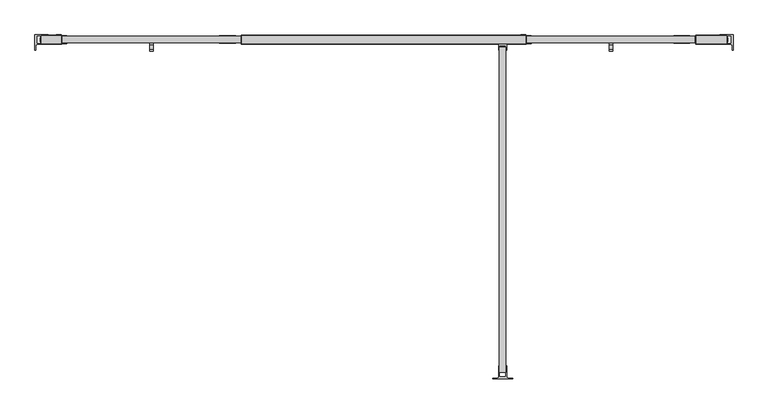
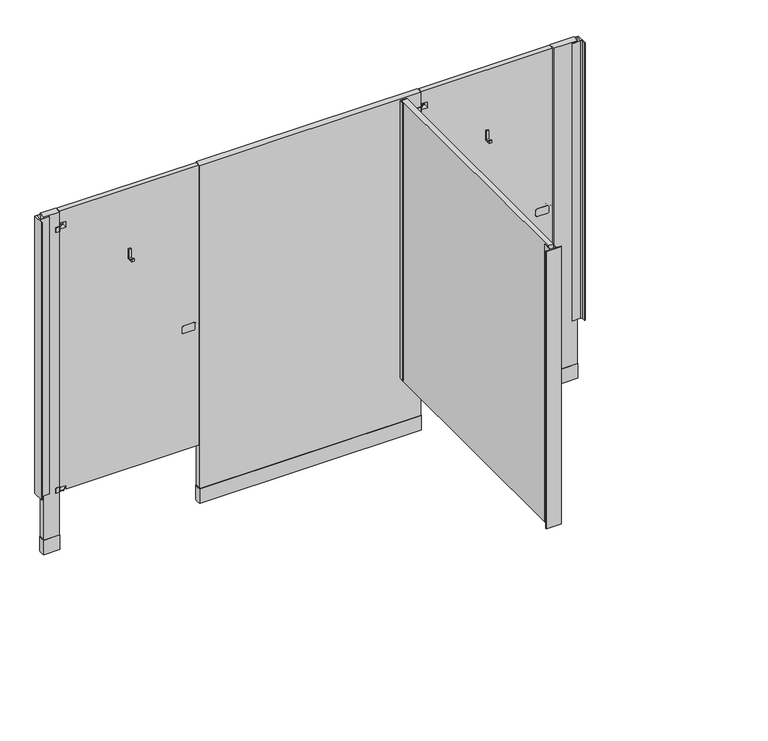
"""IFC4 building model written with IfcOpenShell, lengths in millimetres: proxy geometry, Partition-Floor_Braced-Bradley_Corp-Enamel-ADA-N_Stalls : ADA (optional) + n Standard Stalls."""

from ifc_helpers import new_model, si_unit, point, frame, frame_2d, origin, origin_with_axes, place, context, project, spatial, polyline, circle_curve, trimmed, segment, composite_curve, outline, extrude, source, transform, mapped, element, save
from ifc_brep_helpers import plane_surface, cylinder_surface, advanced_brep


def specialty_equipment_17d1b64b(model_context):
    return source(origin(), model_context, "Body", "SolidModel", [
        extrude(outline(polyline([(1299.9991724, 1411.4003365), (1268.2491724, 1411.4003365), (1268.2491724, 1424.1003365), (1274.5991724, 1424.1003365), (1274.5991724, 1417.7503365), (1293.6491724, 1417.7503365), (1293.6491724, 1462.2003365), (1299.9991724, 1462.2003365), (1299.9991724, 1411.4003365)])), frame((635.7502547, 0.0, 0.0), z_axis=(1.0, 0.0, 0.0), x_axis=(0.0, 1.0, 0.0)), (0.0, 0.0, 1.0), 12.7),
        advanced_brep(
        [(980.9750547, 1307.62, 939.8), (998.4502547, 1307.62, 939.8), (998.4502547, 1317.78, 939.8), (980.9750547, 1317.78, 939.8), (980.9750547, 1312.7, 939.8), (998.4502547, 1312.7, 939.8)],
        [
            (0, 1),
            (1, 2, circle_curve(frame((998.4502547, 1312.7, 939.8), z_axis=(-1.0, 0.0, 0.0), x_axis=(0.0, 1.0, 0.0)), 5.08)),
            (2, 3),
            (3, 0, circle_curve(frame((980.9750547, 1312.7, 939.8), z_axis=(1.0, 0.0, 0.0), x_axis=(0.0, 1.0, 0.0)), 5.08)),
            (2, 1, circle_curve(frame((998.4502547, 1312.7, 939.8), z_axis=(-1.0, 0.0, 0.0), x_axis=(0.0, 1.0, 0.0)), 5.08)),
            (0, 3, circle_curve(frame((980.9750547, 1312.7, 939.8), z_axis=(1.0, 0.0, 0.0), x_axis=(0.0, 1.0, 0.0)), 5.08)),
            (4, 0),
            (3, 4),
            (1, 5),
            (5, 2),
        ],
        [
            cylinder_surface(frame((998.4502547, 1312.7, 939.8), z_axis=(-1.0, 0.0, 0.0), x_axis=(0.0, 1.0, 0.0)), 5.08),
            plane_surface(frame((980.9750547, 1312.7, 939.8), z_axis=(-1.0, 0.0, 0.0), x_axis=(0.0, 1.0, 0.0))),
            plane_surface(frame((998.4502547, 1312.7, 939.8), z_axis=(1.0, 0.0, 0.0), x_axis=(0.0, 1.0, 0.0))),
        ],
        [
            (0, [[1, 2, 3, 4]]),
            (0, [[-3, 5, -1, 6]]),
            (1, [[7, -4, 8]]),
            (1, [[-8, -6, -7]]),
            (2, [[9, 10, -2]]),
            (2, [[-10, -9, -5]]),
        ],
    ),
        extrude(outline(composite_curve([segment(trimmed(circle_curve(frame_2d((926.0058992, 910.0309539)), 5.2558992), [point((926.0058992, 904.7750547))], [point((920.75, 910.0309539))], False, "CARTESIAN"), True, "CONTINUOUS"), segment(polyline([(920.75, 910.0309539), (920.75, 963.0191555)]), True, "CONTINUOUS"), segment(trimmed(circle_curve(frame_2d((926.0058992, 963.0191555)), 5.2558992), [point((920.75, 963.0191555))], [point((926.0058992, 968.2750547))], False, "CARTESIAN"), True, "CONTINUOUS"), segment(polyline([(926.0058992, 968.2750547), (953.5941008, 968.2750547)]), True, "CONTINUOUS"), segment(trimmed(circle_curve(frame_2d((953.5941008, 963.0191555)), 5.2558992), [point((953.5941008, 968.2750547))], [point((958.85, 963.0191555))], False, "CARTESIAN"), True, "CONTINUOUS"), segment(polyline([(958.85, 963.0191555), (958.85, 910.0309539)]), True, "CONTINUOUS"), segment(trimmed(circle_curve(frame_2d((953.5941008, 910.0309539)), 5.2558992), [point((958.85, 910.0309539))], [point((953.5941008, 904.7750547))], False, "CARTESIAN"), True, "CONTINUOUS"), segment(polyline([(953.5941008, 904.7750547), (926.0058992, 904.7750547)]), True, "CONTINUOUS")], self_intersect=False)), frame((0.0, 1298.095, 0.0), z_axis=(0.0, 1.0, 0.0), x_axis=(0.0, 0.0, 1.0)), (0.0, 0.0, 1.0), 29.21),
        extrude(outline(polyline([(1299.9991724, 1411.4003365), (1268.2491724, 1411.4003365), (1268.2491724, 1424.1003365), (1274.5991724, 1424.1003365), (1274.5991724, 1417.7503365), (1293.6491724, 1417.7503365), (1293.6491724, 1462.2003365), (1299.9991724, 1462.2003365), (1299.9991724, 1411.4003365)])), frame((2415.9502547, 0.0, 0.0), z_axis=(1.0, 0.0, 0.0), x_axis=(0.0, 1.0, 0.0)), (0.0, 0.0, 1.0), 12.7),
        advanced_brep(
        [(2741.3750547, 1307.62, 939.8), (2758.8502547, 1307.62, 939.8), (2758.8502547, 1317.78, 939.8), (2741.3750547, 1317.78, 939.8), (2741.3750547, 1312.7, 939.8), (2758.8502547, 1312.7, 939.8)],
        [
            (0, 1),
            (1, 2, circle_curve(frame((2758.8502547, 1312.7, 939.8), z_axis=(-1.0, 0.0, 0.0), x_axis=(0.0, 1.0, 0.0)), 5.08)),
            (2, 3),
            (3, 0, circle_curve(frame((2741.3750547, 1312.7, 939.8), z_axis=(1.0, 0.0, 0.0), x_axis=(0.0, 1.0, 0.0)), 5.08)),
            (2, 1, circle_curve(frame((2758.8502547, 1312.7, 939.8), z_axis=(-1.0, 0.0, 0.0), x_axis=(0.0, 1.0, 0.0)), 5.08)),
            (0, 3, circle_curve(frame((2741.3750547, 1312.7, 939.8), z_axis=(1.0, 0.0, 0.0), x_axis=(0.0, 1.0, 0.0)), 5.08)),
            (4, 0),
            (3, 4),
            (1, 5),
            (5, 2),
        ],
        [
            cylinder_surface(frame((2758.8502547, 1312.7, 939.8), z_axis=(-1.0, 0.0, 0.0), x_axis=(0.0, 1.0, 0.0)), 5.08),
            plane_surface(frame((2741.3750547, 1312.7, 939.8), z_axis=(-1.0, 0.0, 0.0), x_axis=(0.0, 1.0, 0.0))),
            plane_surface(frame((2758.8502547, 1312.7, 939.8), z_axis=(1.0, 0.0, 0.0), x_axis=(0.0, 1.0, 0.0))),
        ],
        [
            (0, [[1, 2, 3, 4]]),
            (0, [[-3, 5, -1, 6]]),
            (1, [[7, -4, 8]]),
            (1, [[-8, -6, -7]]),
            (2, [[9, 10, -2]]),
            (2, [[-10, -9, -5]]),
        ],
    ),
        extrude(outline(composite_curve([segment(trimmed(circle_curve(frame_2d((926.0058992, 2670.4309539)), 5.2558992), [point((926.0058992, 2665.1750547))], [point((920.75, 2670.4309539))], False, "CARTESIAN"), True, "CONTINUOUS"), segment(polyline([(920.75, 2670.4309539), (920.75, 2723.4191555)]), True, "CONTINUOUS"), segment(trimmed(circle_curve(frame_2d((926.0058992, 2723.4191555)), 5.2558992), [point((920.75, 2723.4191555))], [point((926.0058992, 2728.6750547))], False, "CARTESIAN"), True, "CONTINUOUS"), segment(polyline([(926.0058992, 2728.6750547), (953.5941008, 2728.6750547)]), True, "CONTINUOUS"), segment(trimmed(circle_curve(frame_2d((953.5941008, 2723.4191555)), 5.2558992), [point((953.5941008, 2728.6750547))], [point((958.85, 2723.4191555))], False, "CARTESIAN"), True, "CONTINUOUS"), segment(polyline([(958.85, 2723.4191555), (958.85, 2670.4309539)]), True, "CONTINUOUS"), segment(trimmed(circle_curve(frame_2d((953.5941008, 2670.4309539)), 5.2558992), [point((958.85, 2670.4309539))], [point((953.5941008, 2665.1750547))], False, "CARTESIAN"), True, "CONTINUOUS"), segment(polyline([(953.5941008, 2665.1750547), (926.0058992, 2665.1750547)]), True, "CONTINUOUS")], self_intersect=False)), frame((0.0, 1298.095, 0.0), z_axis=(0.0, 1.0, 0.0), x_axis=(0.0, 0.0, 1.0)), (0.0, 0.0, 1.0), 29.21),
        extrude(outline(composite_curve([segment(polyline([(2895.9002547, 1271.425), (2893.3602547, 1271.425), (2893.3602547, 1287.935)]), True, "CONTINUOUS"), segment(trimmed(circle_curve(frame_2d((2887.0102547, 1287.935)), 6.35), [point((2893.3602547, 1287.935))], [point((2887.0102547, 1294.285))], True, "CARTESIAN"), True, "CONTINUOUS"), segment(polyline([(2887.0102547, 1294.285), (2845.1002547, 1294.285), (2845.1002547, 1296.825), (2888.9524359, 1296.825), (2888.9524359, 1328.575), (2845.1002547, 1328.575), (2845.1002547, 1331.115), (2895.9002547, 1331.115), (2895.9002547, 1271.425)]), True, "CONTINUOUS")], self_intersect=False)), frame((0.0, 0.0, 311.15), z_axis=(0.0, 0.0, 1.0), x_axis=(1.0, 0.0, 0.0)), (0.0, 0.0, 1.0), 1460.5),
        extrude(outline(composite_curve([segment(trimmed(circle_curve(frame_2d((2101.9554547, 1312.7)), 2.54), [point((2101.9554547, 1315.24))], [point((2101.9554547, 1310.16))], False, "CARTESIAN"), True, "CONTINUOUS"), segment(trimmed(circle_curve(frame_2d((2101.9554547, 1312.7)), 2.54), [point((2101.9554547, 1310.16))], [point((2101.9554547, 1315.24))], False, "CARTESIAN"), True, "CONTINUOUS")], self_intersect=False)), frame((0.0, 0.0, 304.8), z_axis=(0.0, 0.0, 1.0), x_axis=(1.0, 0.0, 0.0)), (0.0, 0.0, 1.0), 25.4),
        extrude(outline(composite_curve([segment(polyline([(2092.1002547, 1297.46), (2092.1002547, 1327.94), (2113.6902547, 1328.575), (2123.8502547, 1320.32)]), True, "CONTINUOUS"), segment(trimmed(circle_curve(frame_2d((2120.0402547, 1312.7)), 8.519419), [point((2123.8502547, 1320.32))], [point((2123.8502547, 1305.08))], False, "CARTESIAN"), True, "CONTINUOUS"), segment(polyline([(2123.8502547, 1305.08), (2113.6902547, 1296.825), (2092.1002547, 1297.46)]), True, "CONTINUOUS")], self_intersect=False)), frame((0.0, 0.0, 304.8), z_axis=(0.0, 0.0, 1.0), x_axis=(1.0, 0.0, 0.0)), (0.0, 0.0, 1.0), 3.81),
        extrude(outline(composite_curve([segment(polyline([(2073.0502547, 1294.285), (2073.0502547, 1331.115), (2092.1002547, 1331.115)]), True, "CONTINUOUS"), segment(trimmed(circle_curve(frame_2d((2092.1002547, 1328.575)), 2.54), [point((2092.1002547, 1331.115))], [point((2094.6402547, 1328.575))], False, "CARTESIAN"), True, "CONTINUOUS"), segment(trimmed(circle_curve(frame_2d((1986.8397496, 1312.7)), 108.9631338), [point((2094.6402547, 1328.575))], [point((2094.6402547, 1296.825))], False, "CARTESIAN"), True, "CONTINUOUS"), segment(trimmed(circle_curve(frame_2d((2092.1002547, 1296.825)), 2.54), [point((2094.6402547, 1296.825))], [point((2092.1002547, 1294.285))], False, "CARTESIAN"), True, "CONTINUOUS"), segment(polyline([(2092.1002547, 1294.285), (2073.0502547, 1294.285)]), True, "CONTINUOUS")], self_intersect=False)), frame((0.0, 0.0, 304.8), z_axis=(0.0, 0.0, 1.0), x_axis=(1.0, 0.0, 0.0)), (0.0, 0.0, 1.0), 25.4),
        extrude(outline(composite_curve([segment(trimmed(circle_curve(frame_2d((2101.9554547, 1312.7)), 2.54), [point((2101.9554547, 1315.24))], [point((2101.9554547, 1310.16))], False, "CARTESIAN"), True, "CONTINUOUS"), segment(trimmed(circle_curve(frame_2d((2101.9554547, 1312.7)), 2.54), [point((2101.9554547, 1310.16))], [point((2101.9554547, 1315.24))], False, "CARTESIAN"), True, "CONTINUOUS")], self_intersect=False)), frame((0.0, 0.0, 1676.4), z_axis=(0.0, 0.0, 1.0), x_axis=(1.0, 0.0, 0.0)), (0.0, 0.0, 1.0), 25.4),
        extrude(outline(composite_curve([segment(polyline([(2096.8754547, 1328.575), (2107.0354547, 1320.32)]), True, "CONTINUOUS"), segment(trimmed(circle_curve(frame_2d((2103.2254547, 1312.7)), 8.519419), [point((2107.0354547, 1320.32))], [point((2107.0354547, 1305.08))], False, "CARTESIAN"), True, "CONTINUOUS"), segment(polyline([(2107.0354547, 1305.08), (2096.8754547, 1296.825), (2092.1002547, 1297.46), (2092.1002547, 1327.94), (2096.8754547, 1328.575)]), True, "CONTINUOUS")], self_intersect=False)), frame((0.0, 0.0, 1697.99), z_axis=(0.0, 0.0, 1.0), x_axis=(1.0, 0.0, 0.0)), (0.0, 0.0, 1.0), 3.81),
        extrude(outline(composite_curve([segment(polyline([(2073.0502547, 1294.285), (2073.0502547, 1331.115), (2092.1002547, 1331.115)]), True, "CONTINUOUS"), segment(trimmed(circle_curve(frame_2d((2092.1002547, 1328.575)), 2.54), [point((2092.1002547, 1331.115))], [point((2094.6402547, 1328.575))], False, "CARTESIAN"), True, "CONTINUOUS"), segment(trimmed(circle_curve(frame_2d((1986.8397496, 1312.7)), 108.9631338), [point((2094.6402547, 1328.575))], [point((2094.6402547, 1296.825))], False, "CARTESIAN"), True, "CONTINUOUS"), segment(trimmed(circle_curve(frame_2d((2092.1002547, 1296.825)), 2.54), [point((2094.6402547, 1296.825))], [point((2092.1002547, 1294.285))], False, "CARTESIAN"), True, "CONTINUOUS"), segment(polyline([(2092.1002547, 1294.285), (2073.0502547, 1294.285)]), True, "CONTINUOUS")], self_intersect=False)), frame((0.0, 0.0, 1676.4), z_axis=(0.0, 0.0, 1.0), x_axis=(1.0, 0.0, 0.0)), (0.0, 0.0, 1.0), 25.4),
        extrude(outline(composite_curve([segment(trimmed(circle_curve(frame_2d((301.9554547, 1312.7)), 2.54), [point((301.9554547, 1315.24))], [point((301.9554547, 1310.16))], False, "CARTESIAN"), True, "CONTINUOUS"), segment(trimmed(circle_curve(frame_2d((301.9554547, 1312.7)), 2.54), [point((301.9554547, 1310.16))], [point((301.9554547, 1315.24))], False, "CARTESIAN"), True, "CONTINUOUS")], self_intersect=False)), frame((0.0, 0.0, 304.8), z_axis=(0.0, 0.0, 1.0), x_axis=(1.0, 0.0, 0.0)), (0.0, 0.0, 1.0), 25.4),
        extrude(outline(composite_curve([segment(polyline([(292.1002547, 1297.46), (292.1002547, 1327.94), (313.6902547, 1328.575), (323.8502547, 1320.32)]), True, "CONTINUOUS"), segment(trimmed(circle_curve(frame_2d((320.0402547, 1312.7)), 8.519419), [point((323.8502547, 1320.32))], [point((323.8502547, 1305.08))], False, "CARTESIAN"), True, "CONTINUOUS"), segment(polyline([(323.8502547, 1305.08), (313.6902547, 1296.825), (292.1002547, 1297.46)]), True, "CONTINUOUS")], self_intersect=False)), frame((0.0, 0.0, 304.8), z_axis=(0.0, 0.0, 1.0), x_axis=(1.0, 0.0, 0.0)), (0.0, 0.0, 1.0), 3.81),
        extrude(outline(composite_curve([segment(polyline([(273.0502547, 1294.285), (273.0502547, 1331.115), (292.1002547, 1331.115)]), True, "CONTINUOUS"), segment(trimmed(circle_curve(frame_2d((292.1002547, 1328.575)), 2.54), [point((292.1002547, 1331.115))], [point((294.6402547, 1328.575))], False, "CARTESIAN"), True, "CONTINUOUS"), segment(trimmed(circle_curve(frame_2d((186.8397496, 1312.7)), 108.9631338), [point((294.6402547, 1328.575))], [point((294.6402547, 1296.825))], False, "CARTESIAN"), True, "CONTINUOUS"), segment(trimmed(circle_curve(frame_2d((292.1002547, 1296.825)), 2.54), [point((294.6402547, 1296.825))], [point((292.1002547, 1294.285))], False, "CARTESIAN"), True, "CONTINUOUS"), segment(polyline([(292.1002547, 1294.285), (273.0502547, 1294.285)]), True, "CONTINUOUS")], self_intersect=False)), frame((0.0, 0.0, 304.8), z_axis=(0.0, 0.0, 1.0), x_axis=(1.0, 0.0, 0.0)), (0.0, 0.0, 1.0), 25.4),
        extrude(outline(composite_curve([segment(trimmed(circle_curve(frame_2d((301.9554547, 1312.7)), 2.54), [point((301.9554547, 1315.24))], [point((301.9554547, 1310.16))], False, "CARTESIAN"), True, "CONTINUOUS"), segment(trimmed(circle_curve(frame_2d((301.9554547, 1312.7)), 2.54), [point((301.9554547, 1310.16))], [point((301.9554547, 1315.24))], False, "CARTESIAN"), True, "CONTINUOUS")], self_intersect=False)), frame((0.0, 0.0, 1676.4), z_axis=(0.0, 0.0, 1.0), x_axis=(1.0, 0.0, 0.0)), (0.0, 0.0, 1.0), 25.4),
        extrude(outline(composite_curve([segment(polyline([(296.8754547, 1328.575), (307.0354547, 1320.32)]), True, "CONTINUOUS"), segment(trimmed(circle_curve(frame_2d((303.2254547, 1312.7)), 8.519419), [point((307.0354547, 1320.32))], [point((307.0354547, 1305.08))], False, "CARTESIAN"), True, "CONTINUOUS"), segment(polyline([(307.0354547, 1305.08), (296.8754547, 1296.825), (292.1002547, 1297.46), (292.1002547, 1327.94), (296.8754547, 1328.575)]), True, "CONTINUOUS")], self_intersect=False)), frame((0.0, 0.0, 1697.99), z_axis=(0.0, 0.0, 1.0), x_axis=(1.0, 0.0, 0.0)), (0.0, 0.0, 1.0), 3.81),
        extrude(outline(composite_curve([segment(polyline([(273.0502547, 1294.285), (273.0502547, 1331.115), (292.1002547, 1331.115)]), True, "CONTINUOUS"), segment(trimmed(circle_curve(frame_2d((292.1002547, 1328.575)), 2.54), [point((292.1002547, 1331.115))], [point((294.6402547, 1328.575))], False, "CARTESIAN"), True, "CONTINUOUS"), segment(trimmed(circle_curve(frame_2d((186.8397496, 1312.7)), 108.9631338), [point((294.6402547, 1328.575))], [point((294.6402547, 1296.825))], False, "CARTESIAN"), True, "CONTINUOUS"), segment(trimmed(circle_curve(frame_2d((292.1002547, 1296.825)), 2.54), [point((294.6402547, 1296.825))], [point((292.1002547, 1294.285))], False, "CARTESIAN"), True, "CONTINUOUS"), segment(polyline([(292.1002547, 1294.285), (273.0502547, 1294.285)]), True, "CONTINUOUS")], self_intersect=False)), frame((0.0, 0.0, 1676.4), z_axis=(0.0, 0.0, 1.0), x_axis=(1.0, 0.0, 0.0)), (0.0, 0.0, 1.0), 25.4),
        extrude(outline(composite_curve([segment(polyline([(190.5002547, 1271.425), (190.5002547, 1331.115), (241.3002547, 1331.115), (241.3002547, 1328.575), (197.4480735, 1328.575), (197.4480735, 1296.825), (241.3002547, 1296.825), (241.3002547, 1294.285), (199.3902547, 1294.285)]), True, "CONTINUOUS"), segment(trimmed(circle_curve(frame_2d((199.3902547, 1287.935)), 6.35), [point((199.3902547, 1294.285))], [point((193.0402547, 1287.935))], True, "CARTESIAN"), True, "CONTINUOUS"), segment(polyline([(193.0402547, 1287.935), (193.0402547, 1271.425), (190.5002547, 1271.425)]), True, "CONTINUOUS")], self_intersect=False)), frame((0.0, 0.0, 311.15), z_axis=(0.0, 0.0, 1.0), x_axis=(1.0, 0.0, 0.0)), (0.0, 0.0, 1.0), 1460.5),
        extrude(outline(polyline([(1987.9602547, 1296.825), (2018.4402547, 1296.825), (2018.4402547, 1271.425), (2015.9002547, 1271.425), (2015.9002547, 1289.8771812), (1990.5002547, 1289.8771812), (1990.5002547, 1271.425), (1987.9602547, 1271.425), (1987.9602547, 1296.825)])), frame((0.0, 0.0, 311.15), z_axis=(0.0, 0.0, 1.0), x_axis=(1.0, 0.0, 0.0)), (0.0, 0.0, 1.0), 1460.5),
        extrude(outline(composite_curve([segment(polyline([(2041.3002547, -3.175), (1965.1002547, -3.175), (1965.1002547, -0.635), (1981.6102547, -0.635)]), True, "CONTINUOUS"), segment(trimmed(circle_curve(frame_2d((1981.6102547, 5.715)), 6.35), [point((1981.6102547, -0.635))], [point((1987.9602547, 5.715))], True, "CARTESIAN"), True, "CONTINUOUS"), segment(polyline([(1987.9602547, 5.715), (1987.9602547, 47.625), (1990.5002547, 47.625), (1990.5002547, 3.7728188), (2015.9002547, 3.7728188), (2015.9002547, 47.625), (2018.4402547, 47.625), (2018.4402547, 5.715)]), True, "CONTINUOUS"), segment(trimmed(circle_curve(frame_2d((2024.7902547, 5.715)), 6.35), [point((2018.4402547, 5.715))], [point((2024.7902547, -0.635))], True, "CARTESIAN"), True, "CONTINUOUS"), segment(polyline([(2024.7902547, -0.635), (2041.3002547, -0.635), (2041.3002547, -3.175)]), True, "CONTINUOUS")], self_intersect=False)), frame((0.0, 0.0, 311.15), z_axis=(0.0, 0.0, 1.0), x_axis=(1.0, 0.0, 0.0)), (0.0, 0.0, 1.0), 1460.5),
        extrude(outline(composite_curve([segment(trimmed(circle_curve(frame_2d((270.1017864, 1312.7)), 58.4581471), [point((214.3127547, 1295.2375))], [point((214.3127547, 1330.1625))], False, "CARTESIAN"), True, "CONTINUOUS"), segment(polyline([(214.3127547, 1330.1625), (293.6891337, 1330.1625)]), True, "CONTINUOUS"), segment(trimmed(circle_curve(frame_2d((237.900102, 1312.7)), 58.4581471), [point((293.6891337, 1330.1625))], [point((293.6891337, 1295.2375))], False, "CARTESIAN"), True, "CONTINUOUS"), segment(polyline([(293.6891337, 1295.2375), (214.3127547, 1295.2375)]), True, "CONTINUOUS")], self_intersect=False)), origin_with_axes(), (0.0, 0.0, 1.0), 76.2),
        extrude(outline(composite_curve([segment(trimmed(circle_curve(frame_2d((2806.7017864, 1312.7)), 58.4581471), [point((2750.9127547, 1295.2375))], [point((2750.9127547, 1330.1625))], False, "CARTESIAN"), True, "CONTINUOUS"), segment(polyline([(2750.9127547, 1330.1625), (2872.0891337, 1330.1625)]), True, "CONTINUOUS"), segment(trimmed(circle_curve(frame_2d((2816.300102, 1312.7)), 58.4581471), [point((2872.0891337, 1330.1625))], [point((2872.0891337, 1295.2375))], False, "CARTESIAN"), True, "CONTINUOUS"), segment(polyline([(2872.0891337, 1295.2375), (2750.9127547, 1295.2375)]), True, "CONTINUOUS")], self_intersect=False)), origin_with_axes(), (0.0, 0.0, 1.0), 76.2),
        extrude(outline(composite_curve([segment(trimmed(circle_curve(frame_2d((1046.3017864, 1312.7)), 58.4581471), [point((990.5127547, 1295.2375))], [point((990.5127547, 1330.1625))], False, "CARTESIAN"), True, "CONTINUOUS"), segment(polyline([(990.5127547, 1330.1625), (2093.6891337, 1330.1625)]), True, "CONTINUOUS"), segment(trimmed(circle_curve(frame_2d((2037.900102, 1312.7)), 58.4581471), [point((2093.6891337, 1330.1625))], [point((2093.6891337, 1295.2375))], False, "CARTESIAN"), True, "CONTINUOUS"), segment(polyline([(2093.6891337, 1295.2375), (990.5127547, 1295.2375)]), True, "CONTINUOUS")], self_intersect=False)), origin_with_axes(), (0.0, 0.0, 1.0), 76.2),
        extrude(outline(polyline([(2752.5002547, 1296.825), (2752.5002547, 1328.575), (2870.5002547, 1328.575), (2870.5002547, 1296.825), (2752.5002547, 1296.825)])), origin_with_axes(), (0.0, 0.0, 1.0), 1778.0),
        extrude(outline(polyline([(992.1002547, 1296.825), (992.1002547, 1328.575), (2092.1002547, 1328.575), (2092.1002547, 1296.825), (992.1002547, 1296.825)])), origin_with_axes(), (0.0, 0.0, 1.0), 1778.0),
        extrude(outline(polyline([(215.9002547, 1296.825), (215.9002547, 1328.575), (292.1002547, 1328.575), (292.1002547, 1296.825), (215.9002547, 1296.825)])), origin_with_axes(), (0.0, 0.0, 1.0), 1778.0),
        extrude(outline(polyline([(1990.5002547, 1284.125), (2015.9002547, 1284.125), (2015.9002547, 22.225), (1990.5002547, 22.225), (1990.5002547, 1284.125)])), frame((0.0, 0.0, 304.8), z_axis=(0.0, 0.0, 1.0), x_axis=(1.0, 0.0, 0.0)), (0.0, 0.0, 1.0), 1473.2),
        extrude(outline(polyline([(304.8, 2747.7250547), (1778.0, 2747.7250547), (1778.0, 2096.8754547), (1714.5, 2096.8754547), (1714.5, 2128.6254547), (1682.75, 2128.6254547), (1682.75, 2096.8754547), (323.85, 2096.8754547), (323.85, 2128.6254547), (304.8, 2128.6254547), (304.8, 2747.7250547)])), frame((0.0, 1300.0, 0.0), z_axis=(0.0, 1.0, 0.0), x_axis=(0.0, 0.0, 1.0)), (0.0, 0.0, 1.0), 25.4),
        extrude(outline(polyline([(1778.0, 987.3250547), (1778.0, 296.8754547), (1714.5, 296.8754547), (1714.5, 328.6254547), (1682.75, 328.6254547), (1682.75, 296.8754547), (323.85, 296.8754547), (323.85, 328.6254547), (304.8, 328.6254547), (304.8, 987.3250547), (1778.0, 987.3250547)])), frame((0.0, 1300.0, 0.0), z_axis=(0.0, 1.0, 0.0), x_axis=(0.0, 0.0, 1.0)), (0.0, 0.0, 1.0), 25.4),
    ])


if __name__ == "__main__":
    model = new_model("IFC4")
    model_context = context("Model", 3, world=origin())
    ifc_project = project(units=[si_unit("LENGTHUNIT", "METRE", prefix="MILLI")], contexts=[model_context])
    site = spatial("IfcSite", under=ifc_project)
    building = spatial("IfcBuilding", under=site)
    placement = place(None, origin())
    specialty_equipment_shape = specialty_equipment_17d1b64b(model_context)
    element("IfcBuildingElementProxy", 1, Name="Partition-Floor_Braced-Bradley_Corp-Enamel-ADA-N_Stalls : ADA (optional) + n Standard Stalls", ObjectType="Partition-Floor_Braced-Bradley_Corp-Enamel-ADA-N_Stalls : ADA (optional) + n Standard Stalls", at=placement, inside=building, context=model_context, shape_type="MappedRepresentation", body=[
        mapped(specialty_equipment_shape, transform((0.0, 0.0, 0.0), x_axis=(1.0, 0.0, 0.0), y_axis=(0.0, 1.0, 0.0), z_axis=(0.0, 0.0, 1.0))),
    ])
    save(model, "model.ifc")
